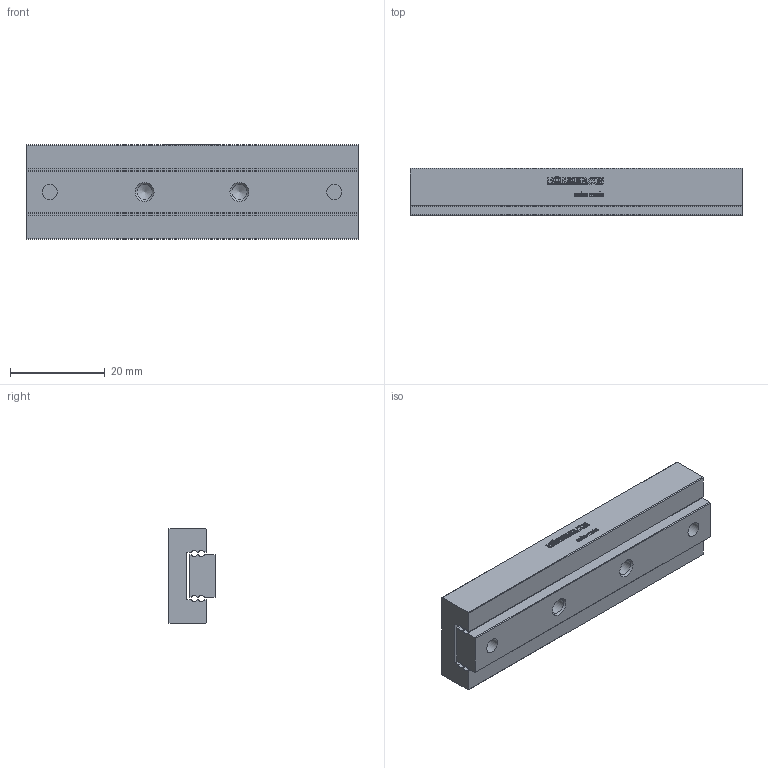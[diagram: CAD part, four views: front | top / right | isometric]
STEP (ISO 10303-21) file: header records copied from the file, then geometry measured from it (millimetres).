
FILE_DESCRIPTION(/* description */ ('STEP AP214'),/* implementation_level */ '2;1');
FILE_NAME(/* name */ 'MSK 9-70.60(0)',/* time_stamp */ '2025-04-16T17:01:14+02:00',/* author */ ('License CC BY-ND 4.0'),/* organization */ ('CADENAS'),/* preprocessor_version */ 'ST-DEVELOPER v19.3',/* originating_system */ 'PARTsolutions',/* authorisation */ ' ');
FILE_SCHEMA (('AUTOMOTIVE_DESIGN {1 0 10303 214 3 1 1}'));
Length unit declared in the file: millimetre
Products named in the file (3): MSK 9-70.60(0); MSK 9-70.60_1; MSK 9-70.60_2
Assembly tree (2 placements, depth 2):
  MSK 9-70.60(0)
    MSK 9-70.60_1
    MSK 9-70.60_2
Bounding box: 70 x 10 x 20 mm (x, y, z)
Volume: 11041.6 mm3; surface area: 7682.4 mm2
Topology: 2 solids, 2 shells, 551 faces, 1502 edges, 996 vertices
Faces by surface type: cylinder 318, plane 217, cone 16
Full cylindrical faces by diameter (mm): 2.459 x12, 3.242 x4, 6 x2
Entity records: 17561 total; most frequent: DIRECTION 3224, CARTESIAN_POINT 3016, ORIENTED_EDGE 2932, EDGE_CURVE 1466, AXIS2_PLACEMENT_3D 1204, VERTEX_POINT 996, LINE 816, VECTOR 816
